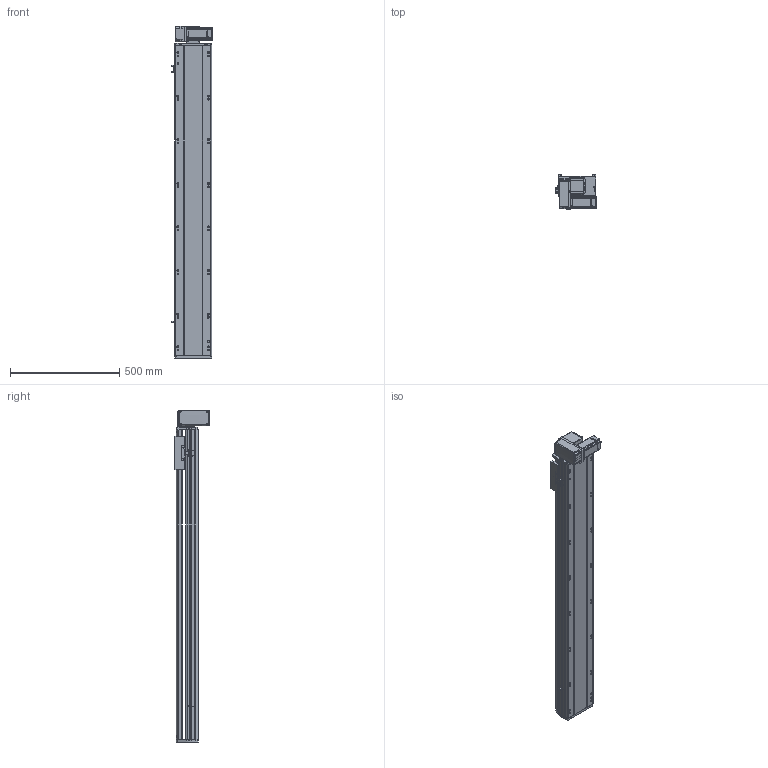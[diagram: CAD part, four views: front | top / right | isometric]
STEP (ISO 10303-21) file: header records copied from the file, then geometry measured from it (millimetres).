
FILE_DESCRIPTION (( 'STEP AP214' ), '1' );
FILE_NAME ('RTB17S-XX-1150-LM-M40-C4.STEP', '2025-12-11T06:27:25', ( '' ), ( '' ), 'SwSTEP 2.0', 'SolidWorks 2018', '' );
FILE_SCHEMA (( 'AUTOMOTIVE_DESIGN' ));
Length unit declared in the file: millimetre
Products named in the file (14): RTB17S-XX-1150-LM-M40-C4; OMRON EE-SX672 传感器^RTB17S-XX-XX-LM-M40-C4; RTH13-BL-012覜茼え俋离^RTB17S-XX-XX-LM-M40-C4; RTB14-L-008-M20--萇儂啣^RTB17S-LM-々湍釱蚾饜-400W_RTB17S-XX-XX-LM-M40-C4; RTB14-L-005P--轴承塑胶压盖^RTB17S-LM-皮带座装配-400W_RTB17S-XX-XX-LM-M40-C4; RTB17S-L-004佪裝蹟譫蟀諉釱^RTB17S-XX-XX-LM-M40-C4; RMP17S-L-014-T20--々湍釱^RTB17S-LM-々湍釱蚾饜-400W_RTB17S-XX-XX-LM-M40-C4; RTB14-L-017P^RTB17S-LM-々湍釱蚾饜-400W_RTB17S-XX-XX-LM-M40-C4; 400W侜督萇儂^RTB17S-XX-XX-LM-M40-C4; RTB17-R-011菁釱^RTB17S-XX-XX-LM-M40-C4; RTB17S-L-007奻裔^RTB17S-XX-XX-LM-M40-C4; RTB17S-L-001耜醱啣^RTB17S-XX-XX-LM-M40-C4; RTB17S-LM-々湍釱蚾饜-400W^RTB17S-XX-XX-LM-M40-C4; RTB14-L-018P^RTB17S-LM-々湍釱蚾饜-400W_RTB17S-XX-XX-LM-M40-C4
Assembly tree (16 placements, depth 3):
  RTB17S-XX-1150-LM-M40-C4
    RTB17-R-011菁釱^RTB17S-XX-XX-LM-M40-C4
    RTB17S-L-007奻裔^RTB17S-XX-XX-LM-M40-C4
    OMRON EE-SX672 传感器^RTB17S-XX-XX-LM-M40-C4  x3
    RTH13-BL-012覜茼え俋离^RTB17S-XX-XX-LM-M40-C4
    RTB17S-L-001耜醱啣^RTB17S-XX-XX-LM-M40-C4
    400W侜督萇儂^RTB17S-XX-XX-LM-M40-C4
    RTB17S-L-004佪裝蹟譫蟀諉釱^RTB17S-XX-XX-LM-M40-C4
    RTB17S-LM-々湍釱蚾饜-400W^RTB17S-XX-XX-LM-M40-C4
      RMP17S-L-014-T20--々湍釱^RTB17S-LM-々湍釱蚾饜-400W_RTB17S-XX-XX-LM-M40-C4
      RTB14-L-005P--轴承塑胶压盖^RTB17S-LM-皮带座装配-400W_RTB17S-XX-XX-LM-M40-C4
      RTB14-L-008-M20--萇儂啣^RTB17S-LM-々湍釱蚾饜-400W_RTB17S-XX-XX-LM-M40-C4
      RTB14-L-017P^RTB17S-LM-々湍釱蚾饜-400W_RTB17S-XX-XX-LM-M40-C4  x2
      RTB14-L-018P^RTB17S-LM-々湍釱蚾饜-400W_RTB17S-XX-XX-LM-M40-C4
Bounding box: 186 x 156.5 x 1522.5 mm (x, y, z)
Volume: 13597602.2 mm3; surface area: 1631458.5 mm2
Topology: 15 solids, 15 shells, 2221 faces, 6141 edges, 4005 vertices
Faces by surface type: plane 1070, cylinder 703, bspline 301, cone 139, torus 8
Entity records: 63401 total; most frequent: CARTESIAN_POINT 17746, ORIENTED_EDGE 9126, DIRECTION 8486, EDGE_CURVE 4563, VERTEX_POINT 2993, AXIS2_PLACEMENT_3D 2923, LINE 2640, VECTOR 2640
